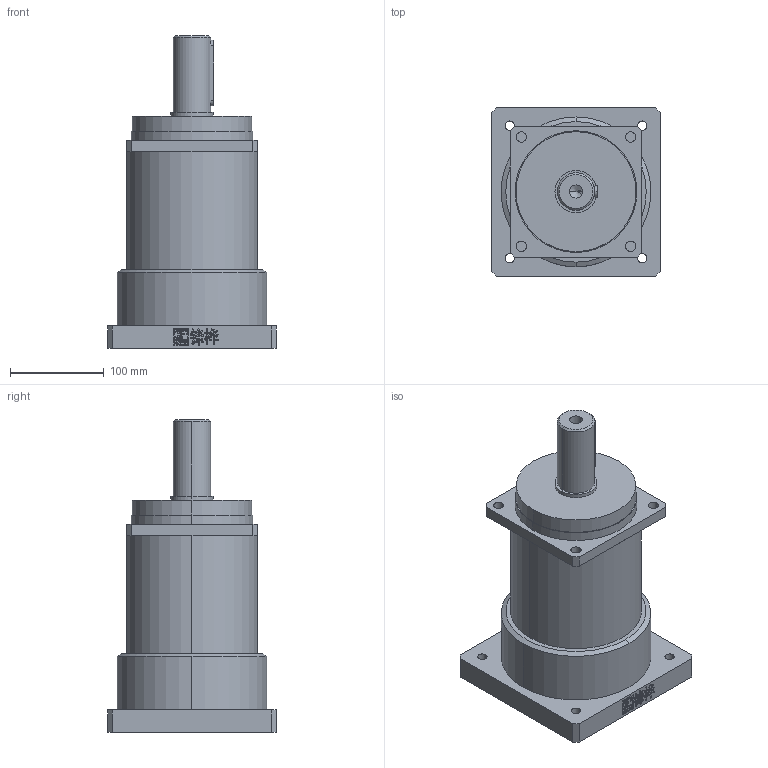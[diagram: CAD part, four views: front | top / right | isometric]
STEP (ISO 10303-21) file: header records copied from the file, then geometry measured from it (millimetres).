
FILE_DESCRIPTION (( 'STEP AP214' ), '1' );
FILE_NAME ('VRS140-L2.STEP', '2019-08-31T06:25:51', ( '微软用户' ), ( '微软中国' ), 'SwSTEP 2.0', 'SolidWorks 2014', '' );
FILE_SCHEMA (( 'AUTOMOTIVE_DESIGN' ));
Length unit declared in the file: millimetre
Products named in the file (2): VRS140-L2
Bounding box: 180 x 180 x 334 mm (x, y, z)
Volume: 4434136 mm3; surface area: 219189.7 mm2
Topology: 1 solids, 1 shells, 705 faces, 2005 edges, 1332 vertices
Faces by surface type: plane 602, bspline 60, cylinder 37, cone 6
Entity records: 29816 total; most frequent: CARTESIAN_POINT 4914, ORIENTED_EDGE 4006, DIRECTION 3252, EDGE_CURVE 2003, VECTOR 1800, LINE 1800, VERTEX_POINT 1332, EDGE_LOOP 745
